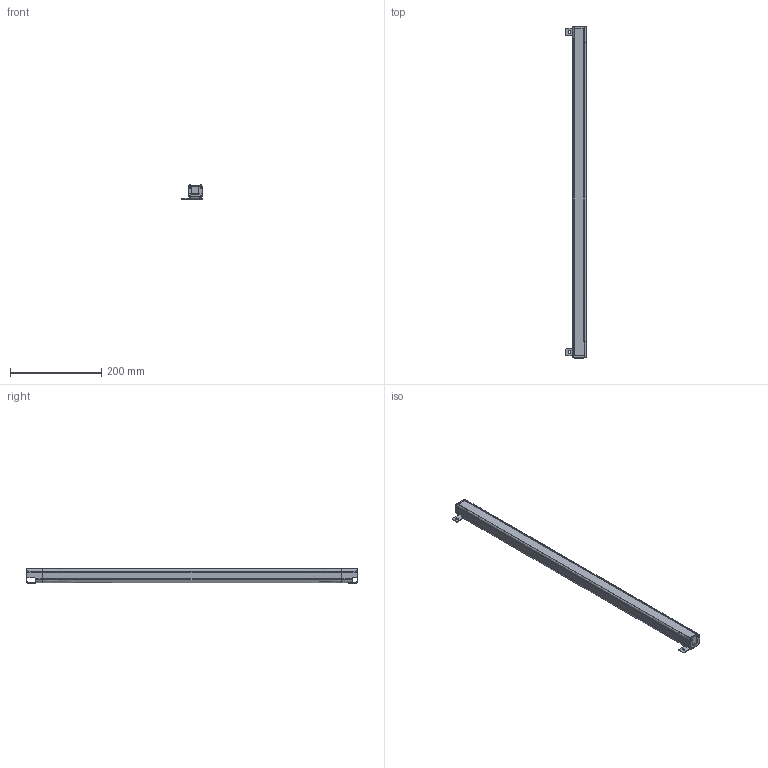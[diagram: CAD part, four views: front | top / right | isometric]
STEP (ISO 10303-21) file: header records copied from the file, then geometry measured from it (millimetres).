
FILE_DESCRIPTION(/* description */ (''),/* implementation_level */ '2;1');
FILE_NAME(/* name */ '1840(30X30).stp',/* time_stamp */ '2018-11-12T09:23:12+08:00',/* author */ (''),/* organization */ (''),/* preprocessor_version */ 'ST-DEVELOPER v16',/* originating_system */ 'SIEMENS PLM Software NX 10.0',/* authorisation */ '');
FILE_SCHEMA (('AP203_CONFIGURATION_CONTROLLED_3D_DESIGN_OF_MECHANICAL_PARTS_AND_ASSEMBLIES_MIM_LF { 1 0 10303 403 2 1 2}'));
Length unit declared in the file: millimetre
Products named in the file (1): Admi0F90EDA92297
Bounding box: 44.89 x 728.4 x 31.39 mm (x, y, z)
Volume: 225260.4 mm3; surface area: 240989 mm2
Topology: 6 solids, 6 shells, 441 faces, 1311 edges, 871 vertices
Faces by surface type: plane 256, cylinder 132, cone 32, bspline 14, extrusion 7
Full cylindrical faces by diameter (mm): 1.5 x2, 3.2 x8, 3.5 x8
Entity records: 15682 total; most frequent: CARTESIAN_POINT 3875, ORIENTED_EDGE 2528, DIRECTION 2314, EDGE_CURVE 1264, VECTOR 856, VERTEX_POINT 855, LINE 849, AXIS2_PLACEMENT_3D 729
